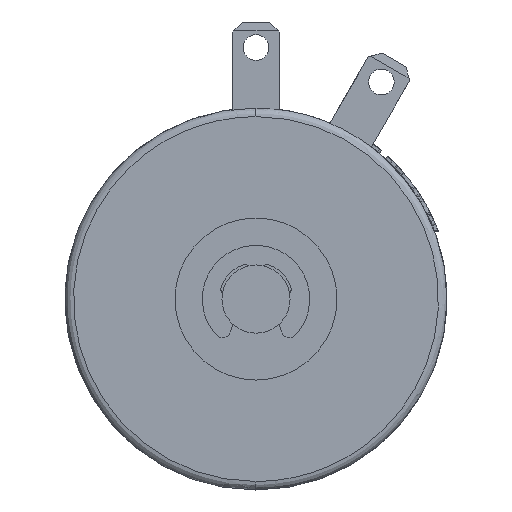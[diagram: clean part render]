
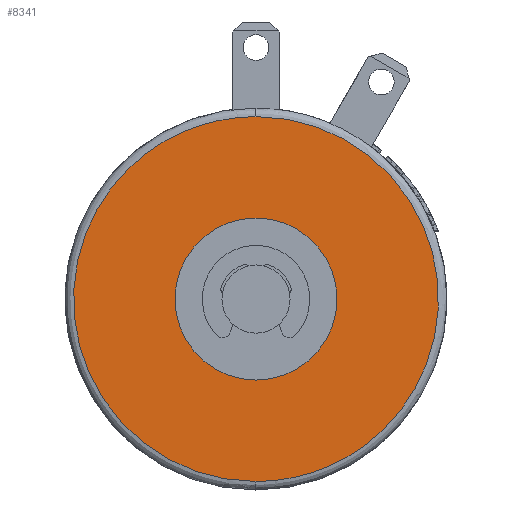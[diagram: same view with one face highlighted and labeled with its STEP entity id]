
A CAD part, front view. The second image highlights one B-rep face of the part: STEP entity #8341.
In plain terms, the highlighted planar face has unit normal (0, -1, 0).
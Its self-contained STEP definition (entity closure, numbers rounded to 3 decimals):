
#360 = CARTESIAN_POINT ( 'NONE',  ( -21.4, -7.02, 10.7 ) ) ;
#451 = CARTESIAN_POINT ( 'NONE',  ( 0., -7.02, 10.7 ) ) ;
#2132 = AXIS2_PLACEMENT_3D ( 'NONE', #9773, #12038, #16554 ) ;
#2356 = AXIS2_PLACEMENT_3D ( 'NONE', #16679, #5368, #5271 ) ;
#4070 = EDGE_LOOP ( 'NONE', ( #14002, #17011 ) ) ;
#4087 = CARTESIAN_POINT ( 'NONE',  ( 21.4, -7.02, -10.7 ) ) ;
#4500 = CARTESIAN_POINT ( 'NONE',  ( 0., -7.02, -10.7 ) ) ;
#4548 = EDGE_CURVE ( 'NONE', #8918, #8918, #9766, .T. ) ;
#5271 = DIRECTION ( 'NONE',  ( 0., 0., 1. ) ) ;
#5368 = DIRECTION ( 'NONE',  ( 0., -1., 0. ) ) ;
#5531 =( BOUNDED_CURVE ( )  B_SPLINE_CURVE ( 3, ( #17579, #17484, #4087, #24246 ),
 .UNSPECIFIED., .F., .F. ) 
 B_SPLINE_CURVE_WITH_KNOTS ( ( 4, 4 ),
 ( 0., 1. ),
 .UNSPECIFIED. ) 
 CURVE ( )  GEOMETRIC_REPRESENTATION_ITEM ( )  RATIONAL_B_SPLINE_CURVE ( ( 0.957, 0.319, 0.319, 0.957 ) ) 
 REPRESENTATION_ITEM ( '' )  );
#6376 = VERTEX_POINT ( 'NONE', #11146 ) ;
#8329 =( BOUNDED_CURVE ( )  B_SPLINE_CURVE ( 3, ( #4500, #22509, #360, #451 ),
 .UNSPECIFIED., .F., .F. ) 
 B_SPLINE_CURVE_WITH_KNOTS ( ( 4, 4 ),
 ( 0., 1. ),
 .UNSPECIFIED. ) 
 CURVE ( )  GEOMETRIC_REPRESENTATION_ITEM ( )  RATIONAL_B_SPLINE_CURVE ( ( 0.957, 0.319, 0.319, 0.957 ) ) 
 REPRESENTATION_ITEM ( '' )  );
#8341 = ADVANCED_FACE ( 'NONE', ( #12046, #12773 ), #9681, .F. ) ;
#8918 = VERTEX_POINT ( 'NONE', #17827 ) ;
#9096 = EDGE_CURVE ( 'NONE', #26395, #6376, #8329, .T. ) ;
#9681 = PLANE ( 'NONE',  #2132 ) ;
#9766 = CIRCLE ( 'NONE', #2356, 4.75 ) ;
#9773 = CARTESIAN_POINT ( 'NONE',  ( 10.828, -7.02, 10.828 ) ) ;
#11146 = CARTESIAN_POINT ( 'NONE',  ( 0., -7.02, 10.7 ) ) ;
#12038 = DIRECTION ( 'NONE',  ( 0., 1., 0. ) ) ;
#12046 = FACE_BOUND ( 'NONE', #19750, .T. ) ;
#12773 = FACE_OUTER_BOUND ( 'NONE', #4070, .T. ) ;
#14002 = ORIENTED_EDGE ( 'NONE', *, *, #17442, .F. ) ;
#16554 = DIRECTION ( 'NONE',  ( 0., 0., -1. ) ) ;
#16679 = CARTESIAN_POINT ( 'NONE',  ( 0., -7.02, 0. ) ) ;
#17011 = ORIENTED_EDGE ( 'NONE', *, *, #9096, .F. ) ;
#17442 = EDGE_CURVE ( 'NONE', #6376, #26395, #5531, .T. ) ;
#17484 = CARTESIAN_POINT ( 'NONE',  ( 21.4, -7.02, 10.7 ) ) ;
#17579 = CARTESIAN_POINT ( 'NONE',  ( 0., -7.02, 10.7 ) ) ;
#17827 = CARTESIAN_POINT ( 'NONE',  ( 0., -7.02, 4.75 ) ) ;
#17835 = ORIENTED_EDGE ( 'NONE', *, *, #4548, .F. ) ;
#19750 = EDGE_LOOP ( 'NONE', ( #17835 ) ) ;
#21538 = CARTESIAN_POINT ( 'NONE',  ( 0., -7.02, -10.7 ) ) ;
#22509 = CARTESIAN_POINT ( 'NONE',  ( -21.4, -7.02, -10.7 ) ) ;
#24246 = CARTESIAN_POINT ( 'NONE',  ( 0., -7.02, -10.7 ) ) ;
#26395 = VERTEX_POINT ( 'NONE', #21538 ) ;
